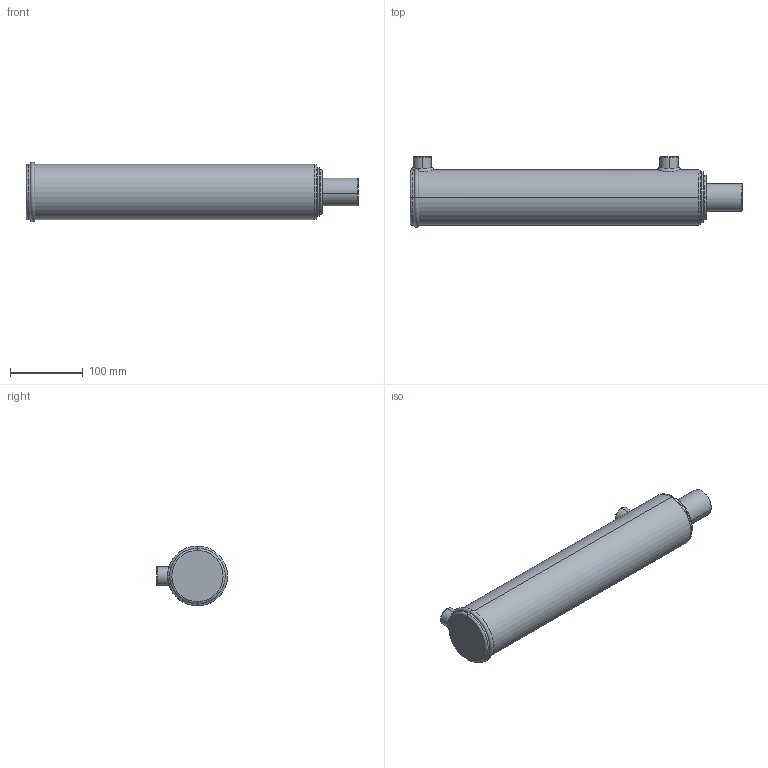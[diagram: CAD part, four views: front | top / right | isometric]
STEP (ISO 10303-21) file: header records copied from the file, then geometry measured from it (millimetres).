
FILE_DESCRIPTION (( 'STEP AP203' ), '1' );
FILE_NAME ('BL250150x305 (12).STEP', '2014-11-25T01:20:50', ( '' ), ( '' ), 'SwSTEP 2.0', 'SolidWorks 2014', '' );
FILE_SCHEMA (( 'CONFIG_CONTROL_DESIGN' ));
Length unit declared in the file: millimetre
Products named in the file (3): BL body 2.5_2.5x12; Spare_2.5x12; BL250150x305 (12)
Assembly tree (2 placements, depth 2):
  BL250150x305 (12)
    BL body 2.5_2.5x12
    Spare_2.5x12
Bounding box: 455 x 97.2 x 82.2 mm (x, y, z)
Volume: 2028601 mm3; surface area: 192163.8 mm2
Topology: 2 solids, 2 shells, 88 faces, 205 edges, 126 vertices
Faces by surface type: cylinder 32, plane 20, torus 18, bspline 10, cone 8
Entity records: 5772 total; most frequent: CARTESIAN_POINT 3521, DIRECTION 422, ORIENTED_EDGE 402, EDGE_CURVE 201, AXIS2_PLACEMENT_3D 182, VERTEX_POINT 126, EDGE_LOOP 101, CIRCLE 99
